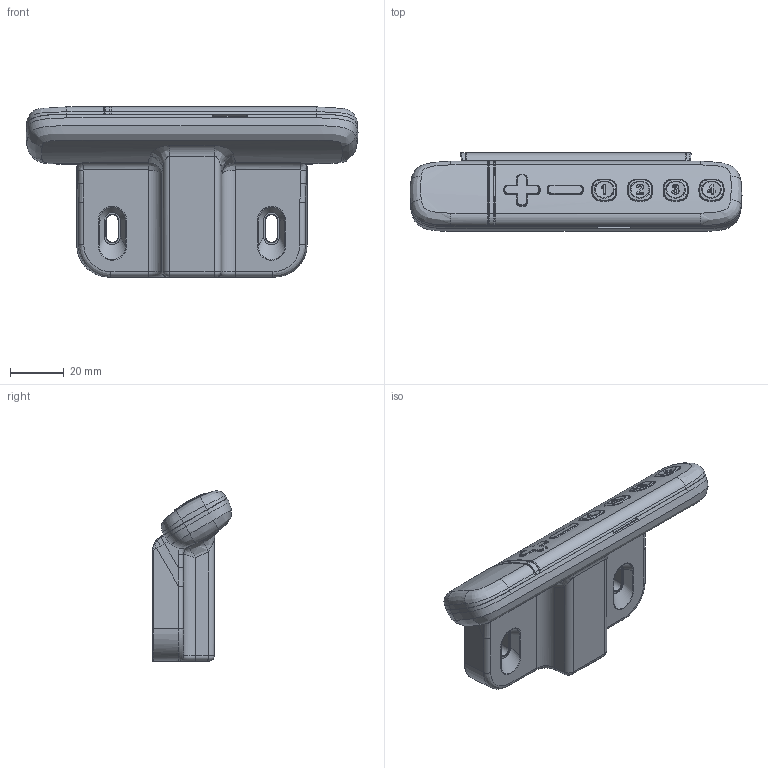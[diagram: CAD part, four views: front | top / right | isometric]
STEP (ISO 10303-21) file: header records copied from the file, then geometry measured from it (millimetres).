
FILE_DESCRIPTION (( 'STEP AP203' ), '1' );
FILE_NAME ('3D_TDH13P.STEP', '2018-06-14T07:29:18', ( '' ), ( '' ), 'SwSTEP 2.0', 'SolidWorks 2015', '' );
FILE_SCHEMA (( 'CONFIG_CONTROL_DESIGN' ));
Products named in the file (7): RJPCB_TDH13_01; 三維零件圖-31605-781-手控器下蓋_170927; 01; 3D_TDH13P; 04; 三維零件圖-31605-780-手控器上蓋-0; 三維零件圖-32905-506-_條-0
Assembly tree (6 placements, depth 2):
  3D_TDH13P
    01
    04
    三維零件圖-31605-780-手控器上蓋-0
    三維零件圖-32905-506-_條-0
    RJPCB_TDH13_01
    三維零件圖-31605-781-手控器下蓋_170927
Bounding box: 123.06 x 29.28 x 63.11 mm (x, y, z)
Volume: 3738.2 mm3; surface area: 49794.9 mm2
Topology: 5 solids, 16 shells, 2887 faces, 7688 edges, 4726 vertices
Faces by surface type: plane 975, cylinder 954, bspline 899, cone 51, torus 8
Entity records: 298581 total; most frequent: CARTESIAN_POINT 234884, ORIENTED_EDGE 15057, DIRECTION 10354, EDGE_CURVE 7547, VERTEX_POINT 4726, AXIS2_PLACEMENT_3D 3539, VECTOR 3276, LINE 3276
